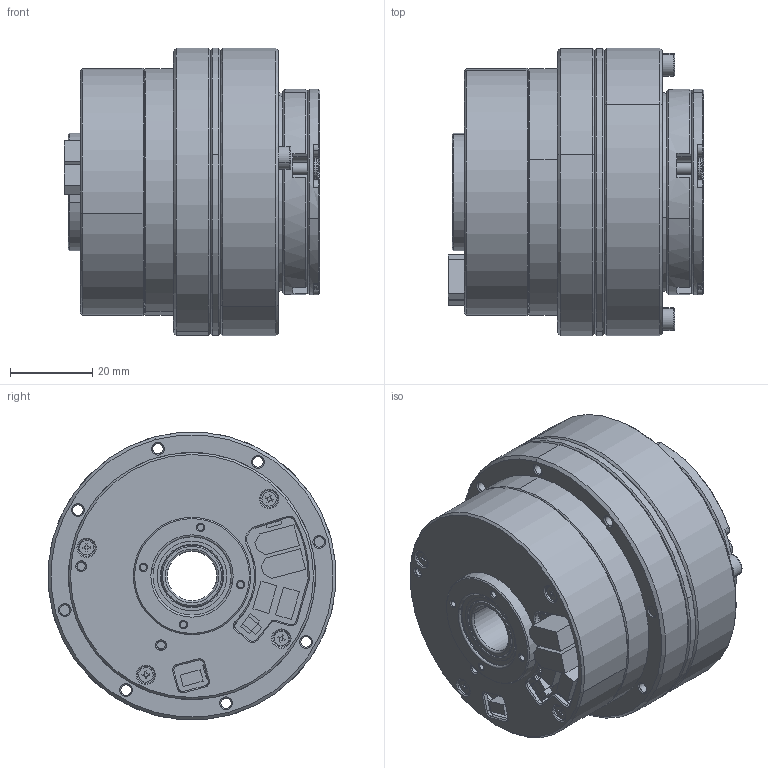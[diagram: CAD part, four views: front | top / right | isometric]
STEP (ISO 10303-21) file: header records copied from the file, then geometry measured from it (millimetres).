
FILE_DESCRIPTION (( 'STEP AP203' ), '1' );
FILE_NAME ('CRA-RI50-70-PRO-2-xxx-B0.step', '2024-07-31T06:58:03', ( '' ), ( '' ), 'SwSTEP 2.0', 'SolidWorks 2021', '' );
FILE_SCHEMA (( 'CONFIG_CONTROL_DESIGN' ));
Length unit declared in the file: millimetre
Products named in the file (1): CRA-RI50-70-PRO-2-xxx-B0
Bounding box: 62 x 69.93 x 69.93 mm (x, y, z)
Surface area: 40181.5 mm2 (no closed solid volume)
Topology: 0 solids, 68 shells, 622 faces, 2378 edges, 1812 vertices
Faces by surface type: plane 235, cylinder 209, cone 150, torus 28
Entity records: 30145 total; most frequent: CARTESIAN_POINT 10377, DIRECTION 4062, ORIENTED_EDGE 3556, EDGE_CURVE 2374, VERTEX_POINT 1812, AXIS2_PLACEMENT_3D 1444, VECTOR 1174, LINE 1174
